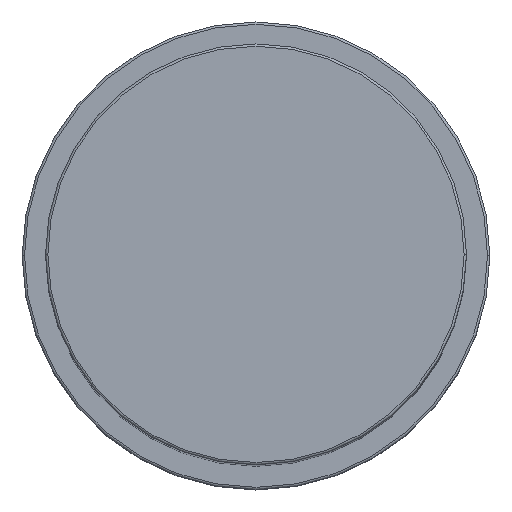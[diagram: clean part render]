
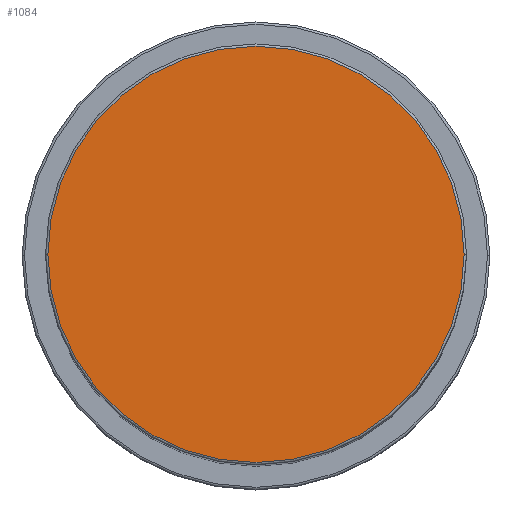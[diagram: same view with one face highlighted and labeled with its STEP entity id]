
A CAD part, top view. The second image highlights one B-rep face of the part: STEP entity #1084.
In plain terms, the highlighted planar face has unit normal (0, 0, 1).
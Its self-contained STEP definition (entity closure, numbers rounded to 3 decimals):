
#212 = ORIENTED_EDGE ( 'NONE', *, *, #1313, .T. ) ;
#225 = CIRCLE ( 'NONE', #866, 44.5 ) ;
#235 = DIRECTION ( 'NONE',  ( 1., 0., 0. ) ) ;
#289 = DIRECTION ( 'NONE',  ( 0., 0., 1. ) ) ;
#341 = CIRCLE ( 'NONE', #1124, 44.5 ) ;
#421 = DIRECTION ( 'NONE',  ( 1., 0., 0. ) ) ;
#488 = CARTESIAN_POINT ( 'NONE',  ( 0., 0., 199. ) ) ;
#652 = CARTESIAN_POINT ( 'NONE',  ( 44.5, 0., 199. ) ) ;
#657 = CARTESIAN_POINT ( 'NONE',  ( 0., 0., 199. ) ) ;
#866 = AXIS2_PLACEMENT_3D ( 'NONE', #488, #1623, #235 ) ;
#875 = EDGE_CURVE ( 'NONE', #1089, #1232, #341, .T. ) ;
#922 = DIRECTION ( 'NONE',  ( 0., 0., 1. ) ) ;
#936 = CARTESIAN_POINT ( 'NONE',  ( -44.5, 0., 199. ) ) ;
#953 = EDGE_LOOP ( 'NONE', ( #1191, #212 ) ) ;
#955 = AXIS2_PLACEMENT_3D ( 'NONE', #657, #922, #1171 ) ;
#1051 = CARTESIAN_POINT ( 'NONE',  ( 0., 0., 199. ) ) ;
#1084 = ADVANCED_FACE ( 'NONE', ( #1341 ), #1292, .T. ) ;
#1089 = VERTEX_POINT ( 'NONE', #652 ) ;
#1124 = AXIS2_PLACEMENT_3D ( 'NONE', #1051, #289, #421 ) ;
#1171 = DIRECTION ( 'NONE',  ( 1., 0., 0. ) ) ;
#1191 = ORIENTED_EDGE ( 'NONE', *, *, #875, .T. ) ;
#1232 = VERTEX_POINT ( 'NONE', #936 ) ;
#1292 = PLANE ( 'NONE',  #955 ) ;
#1313 = EDGE_CURVE ( 'NONE', #1232, #1089, #225, .T. ) ;
#1341 = FACE_OUTER_BOUND ( 'NONE', #953, .T. ) ;
#1623 = DIRECTION ( 'NONE',  ( 0., 0., 1. ) ) ;
